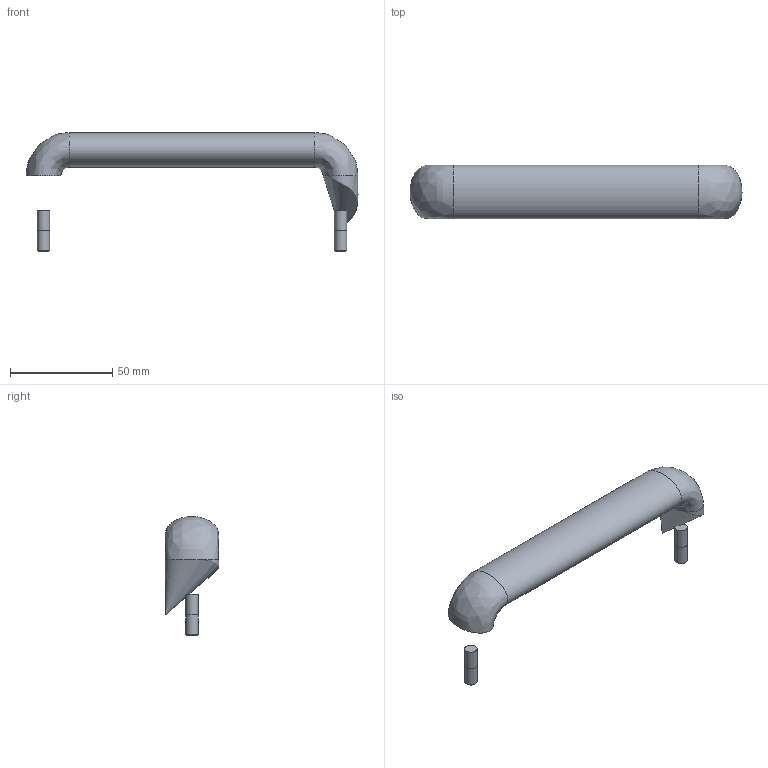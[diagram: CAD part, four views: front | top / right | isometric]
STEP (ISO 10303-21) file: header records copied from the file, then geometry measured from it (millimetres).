
FILE_DESCRIPTION( ('This file contains a STEP AP42 implementation' ,'as created by ZW3D STEP Interface translator.') ,'2;1' );
FILE_NAME( 'U.50_170.stp' ,'26 5 8. 7 2 3', (''), ('ZWCAD Software Co.'), 'Version 1.0', 'ZW3D to STEP translator', '' );
FILE_SCHEMA(('AP242_MANAGED_MODEL_BASED_3D_ENGINEERING_MIM_LF { 1 0 10303 442 1 1 4 }'));
Length unit declared in the file: millimetre
Products named in the file (1): 0
Bounding box: 162 x 26 x 58 mm (x, y, z)
Volume: 62579.4 mm3; surface area: 14087.8 mm2
Topology: 5 solids, 5 shells, 19 faces, 24 edges, 15 vertices
Faces by surface type: plane 8, bspline 5, cylinder 4, cone 2
Full cylindrical faces by diameter (mm): 6 x4
Entity records: 547 total; most frequent: CARTESIAN_POINT 198, DIRECTION 67, ORIENTED_EDGE 54, AXIS2_PLACEMENT_3D 29, EDGE_CURVE 27, EDGE_LOOP 21, FACE_OUTER_BOUND 19, ADVANCED_FACE 19
